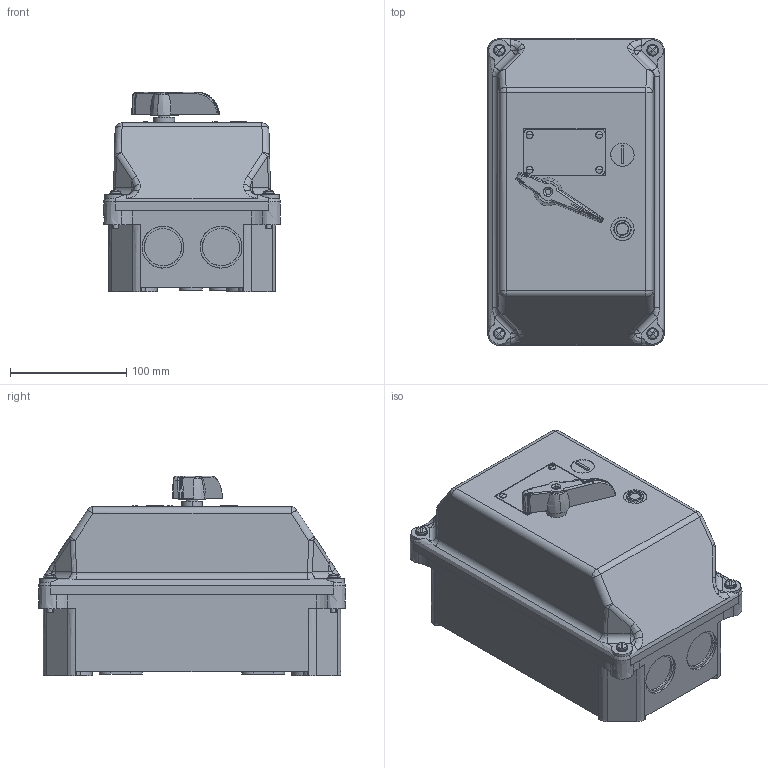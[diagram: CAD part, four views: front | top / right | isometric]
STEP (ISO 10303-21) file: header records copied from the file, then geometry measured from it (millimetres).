
FILE_DESCRIPTION (( 'STEP AP203' ), '1' );
FILE_NAME ('Äîïîëíèòåëüíàÿ îáîëî÷êà ÃÆÈÊ.305142.001.STEP', '2022-06-09T07:58:59', ( '' ), ( '' ), 'SwSTEP 2.0', 'SolidWorks 2018', '' );
FILE_SCHEMA (( 'CONFIG_CONTROL_DESIGN' ));
Length unit declared in the file: millimetre
Products named in the file (1): Äîïîëíèòåëüíàÿ îáîëî÷êà ÃÆÈÊ.305142.001
Bounding box: 152 x 264 x 172 mm (x, y, z)
Volume: 4739826.2 mm3; surface area: 184461.5 mm2
Topology: 1 solids, 1 shells, 469 faces, 1163 edges, 732 vertices
Faces by surface type: bspline 469
Entity records: 26846 total; most frequent: CARTESIAN_POINT 20094, ORIENTED_EDGE 2282, EDGE_CURVE 1141, B_SPLINE_CURVE_WITH_KNOTS 819, VERTEX_POINT 732, EDGE_LOOP 527, FACE_OUTER_BOUND 469, ADVANCED_FACE 469
